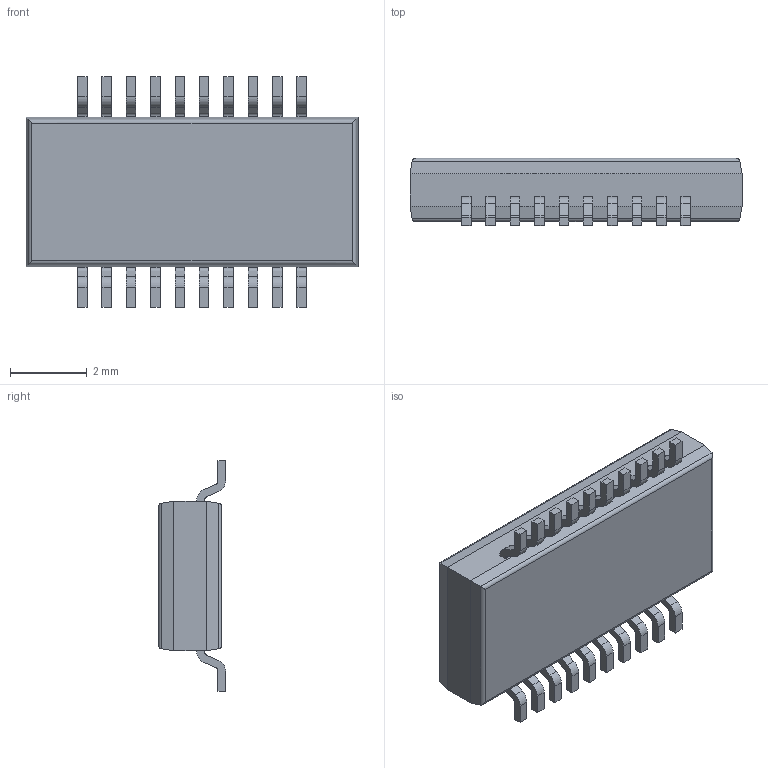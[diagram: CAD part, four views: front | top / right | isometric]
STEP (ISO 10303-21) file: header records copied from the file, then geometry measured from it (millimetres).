
FILE_DESCRIPTION (( 'STEP AP214' ), '1' );
FILE_NAME ( 'SOP63P600X175-20.STEP', '2013-08-13T09:34:14', ( '' ), ( '' ), 'FPX Expert 2013', 'PCB Libraries', '' );
FILE_SCHEMA (( 'AUTOMOTIVE_DESIGN' ));
Length unit declared in the file: millimetre
Products named in the file (1): SOP63P600X175-20
Bounding box: 8.65 x 1.75 x 6 mm (x, y, z)
Volume: 56.2 mm3; surface area: 130.4 mm2
Topology: 21 solids, 21 shells, 305 faces, 770 edges, 508 vertices
Faces by surface type: plane 215, cylinder 88, torus 2
Entity records: 10083 total; most frequent: CARTESIAN_POINT 1608, DIRECTION 1540, ORIENTED_EDGE 1540, EDGE_CURVE 770, VECTOR 596, LINE 596, VERTEX_POINT 508, AXIS2_PLACEMENT_3D 472
